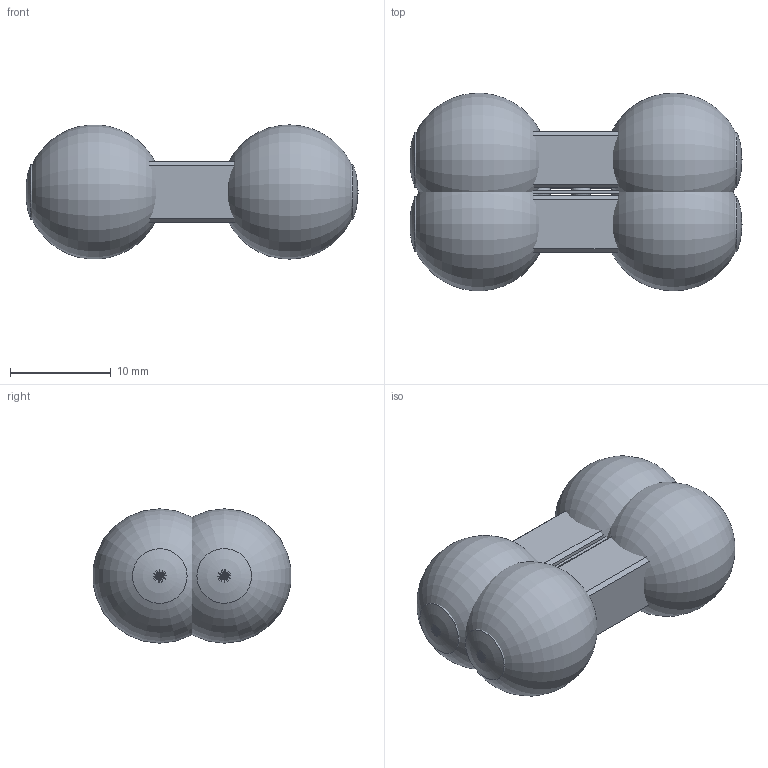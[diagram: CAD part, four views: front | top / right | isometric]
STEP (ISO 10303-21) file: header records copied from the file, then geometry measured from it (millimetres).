
FILE_DESCRIPTION(/* description */ ('STEP AP214'),/* implementation_level */ '2;1');
FILE_NAME(/* name */ 'VB2-30Hx5Z(0)',/* time_stamp */ '2024-09-19T10:02:27+02:00',/* author */ ('License CC BY-ND 4.0'),/* organization */ ('CADENAS'),/* preprocessor_version */ 'ST-DEVELOPER v19.3',/* originating_system */ 'PARTsolutions',/* authorisation */ ' ');
FILE_SCHEMA (('AUTOMOTIVE_DESIGN {1 0 10303 214 3 1 1}'));
Length unit declared in the file: millimetre
Products named in the file (3): VB2-30Hx5Z(0); VR2-30*5Z Ball guide; VR2-30*5Z Ball cage
Assembly tree (3 placements, depth 2):
  VB2-30Hx5Z(0)
    VR2-30*5Z Ball guide  x2
    VR2-30*5Z Ball cage
Bounding box: 32.98 x 19.64 x 13.34 mm (x, y, z)
Volume: 3238.5 mm3; surface area: 4303.5 mm2
Topology: 3 solids, 3 shells, 82 faces, 196 edges, 126 vertices
Faces by surface type: plane 48, cone 12, sphere 10, cylinder 8, torus 4
Full cylindrical faces by diameter (mm): 2.55 x4, 4.4 x4
Entity records: 1410 total; most frequent: DIRECTION 239, CARTESIAN_POINT 224, ORIENTED_EDGE 194, EDGE_CURVE 97, AXIS2_PLACEMENT_3D 87, FACE_BOUND 77, EDGE_LOOP 75, VERTEX_POINT 72
